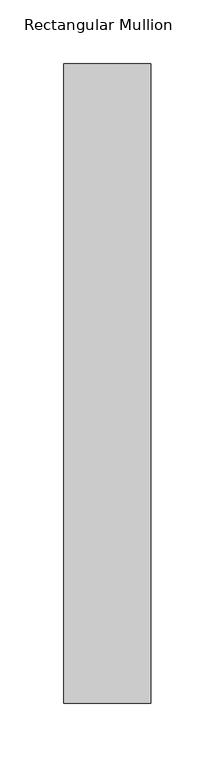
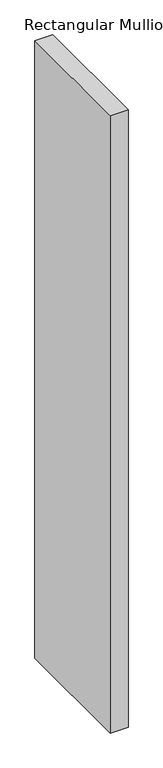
"""IFC4 building model written with IfcOpenShell, lengths in millimetres: member geometry, Rectangular Mullion : DucoSun Cubic Design louvre 500."""

from ifc_helpers import new_model, si_unit, frame, origin, place, context, project, spatial, polyline, outline, extrude, source, transform, mapped, element, save


def rectangular_mullion_a84aeb48(model_context):
    return source(origin(), model_context, "Body", "SweptSolid", [
        extrude(outline(polyline([(0.0, 500.0), (0.0, 0.0), (-68.0, 0.0), (-68.0, 500.0), (0.0, 500.0)])), frame((0.0, 0.0, -2500.0), z_axis=(0.0, 0.0, 1.0), x_axis=(1.0, 0.0, 0.0)), (0.0, 0.0, 1.0), 2500.0),
    ])


if __name__ == "__main__":
    model = new_model("IFC4")
    model_context = context("Model", 3, world=origin())
    ifc_project = project(units=[si_unit("LENGTHUNIT", "METRE", prefix="MILLI")], contexts=[model_context])
    site = spatial("IfcSite", under=ifc_project)
    building = spatial("IfcBuilding", under=site)
    placement = place(None, origin())
    rectangular_mullion_shape = rectangular_mullion_a84aeb48(model_context)
    element("IfcMember", 1, ObjectType="Rectangular Mullion : DucoSun Cubic Design louvre 500", at=placement, inside=building, context=model_context, shape_type="MappedRepresentation", body=[
        mapped(rectangular_mullion_shape, transform((0.0, 0.0, 0.0), x_axis=(1.0, 0.0, 0.0), y_axis=(0.0, 1.0, 0.0), z_axis=(0.0, 0.0, 1.0))),
    ])
    save(model, "model.ifc")
